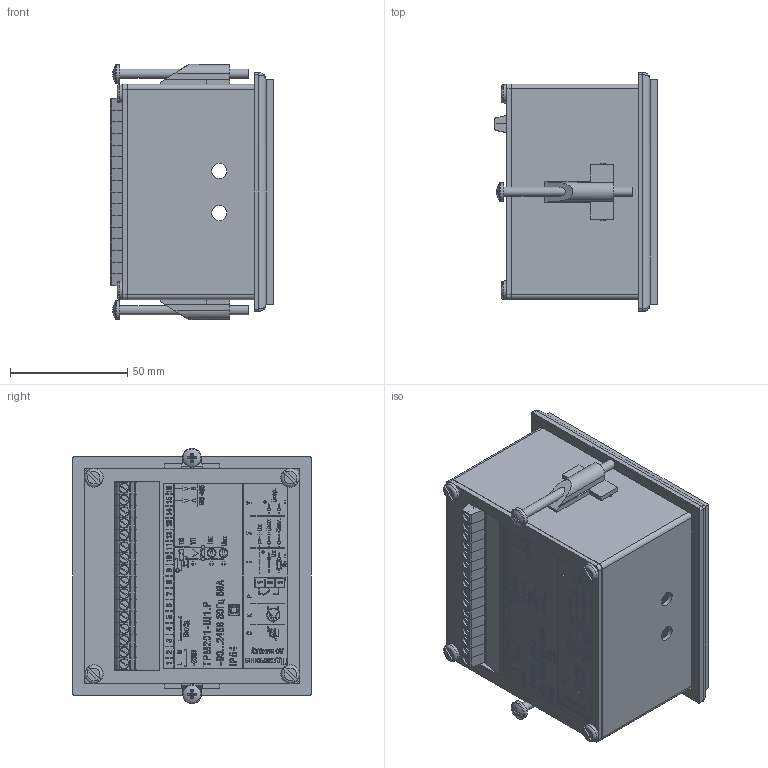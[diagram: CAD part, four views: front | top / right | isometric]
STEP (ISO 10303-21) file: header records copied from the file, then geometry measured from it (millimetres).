
FILE_DESCRIPTION (( 'STEP AP214' ), '1' );
FILE_NAME ('ﾒﾐﾌ201-ﾙ1.ﾐ [U03].STEP', '2025-01-15T11:23:54', ( '' ), ( '' ), 'SwSTEP 2.0', 'SolidWorks 2019', '' );
FILE_SCHEMA (( 'AUTOMOTIVE_DESIGN' ));
Length unit declared in the file: millimetre
Products named in the file (10): Ê³ïëåííÿ Ì4; Êîðïóñ Ù1-1 (ñ³ðèé); Ïàíåëü çàäíÿÿ ÒÐÌ201-Ù1; slotted pan head screw_iso_ISO 1580 - M4 x 20; Óù³ëüíþâà÷ Ù1; ______^2EDGKR-5.08-16p; AQ_TRM201_001F01M; 2EDGKR-5.08-16p; ﾒﾐﾌ201-ﾙ1.ﾐ [U03]; Pan Cross Head_AM4_55_B18.6.7M - M4 x 0.7 x 40 Type I Cross Recessed PHMS
Assembly tree (29 placements, depth 3):
  ﾒﾐﾌ201-ﾙ1.ﾐ [U03]
    2EDGKR-5.08-16p
      ______^2EDGKR-5.08-16p  x16
    Pan Cross Head_AM4_55_B18.6.7M - M4 x 0.7 x 40 Type I Cross Recessed PHMS  x2
    Ê³ïëåííÿ Ì4  x2
    Óù³ëüíþâà÷ Ù1
    slotted pan head screw_iso_ISO 1580 - M4 x 20  x4
    Êîðïóñ Ù1-1 (ñ³ðèé)
    Ïàíåëü çàäíÿÿ ÒÐÌ201-Ù1
    AQ_TRM201_001F01M
Bounding box: 69.25 x 102 x 109 mm (x, y, z)
Volume: 130270.9 mm3; surface area: 137264.6 mm2
Topology: 266 solids, 266 shells, 4497 faces, 11411 edges, 7570 vertices
Faces by surface type: plane 3081, bspline 1070, cylinder 330, torus 10, cone 4, sphere 2
Full cylindrical faces by diameter (mm): 1.274 x1, 2.5 x4, 3.268 x2, 4 x6, 8 x2, 13 x6, 14 x3
Entity records: 160263 total; most frequent: CARTESIAN_POINT 34313, ORIENTED_EDGE 19296, DIRECTION 13180, EDGE_CURVE 9648, LINE 7202, VECTOR 7202, VERTEX_POINT 6436, EDGE_LOOP 4040
